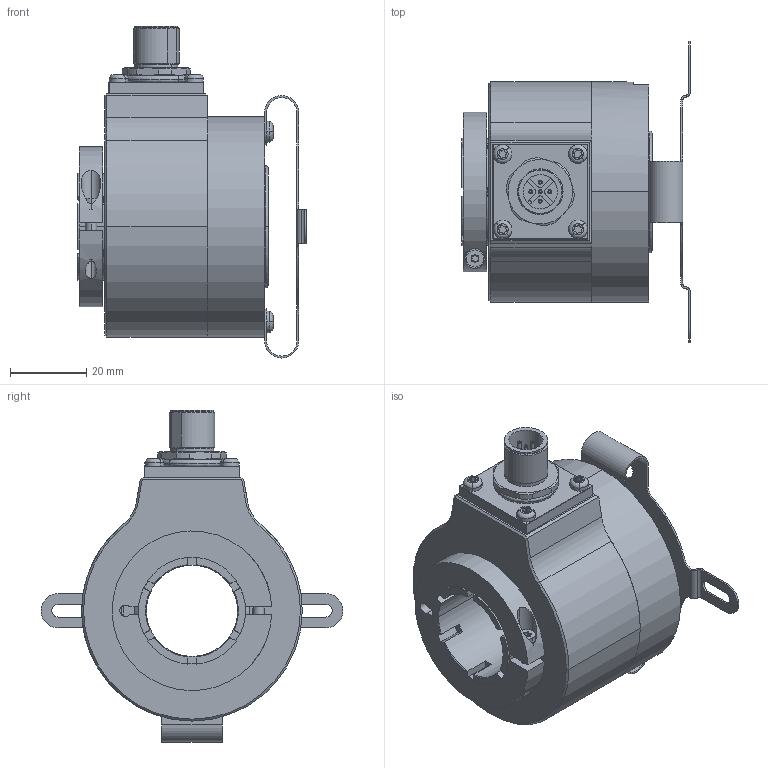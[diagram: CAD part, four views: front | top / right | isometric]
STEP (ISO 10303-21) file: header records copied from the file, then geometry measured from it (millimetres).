
FILE_DESCRIPTION (( 'STEP AP203' ), '1' );
FILE_NAME ('K58I.OXX.XXXXX.XC16524.XXRC6.step', '2025-12-03T07:31:49', ( '' ), ( '' ), 'SwSTEP 2.0', 'SolidWorks 2021', '' );
FILE_SCHEMA (( 'CONFIG_CONTROL_DESIGN' ));
Length unit declared in the file: millimetre
Products named in the file (1): K58I.OXX.XXXXX.XC16524.XXRC6
Bounding box: 60.2 x 79.4 x 87.3 mm (x, y, z)
Surface area: 44823.5 mm2 (no closed solid volume)
Topology: 0 solids, 13 shells, 541 faces, 1351 edges, 850 vertices
Faces by surface type: cylinder 264, plane 180, cone 63, bspline 32, torus 2
Entity records: 18616 total; most frequent: CARTESIAN_POINT 5608, DIRECTION 2796, ORIENTED_EDGE 2662, EDGE_CURVE 1339, AXIS2_PLACEMENT_3D 1104, VERTEX_POINT 850, EDGE_LOOP 599, CIRCLE 594
